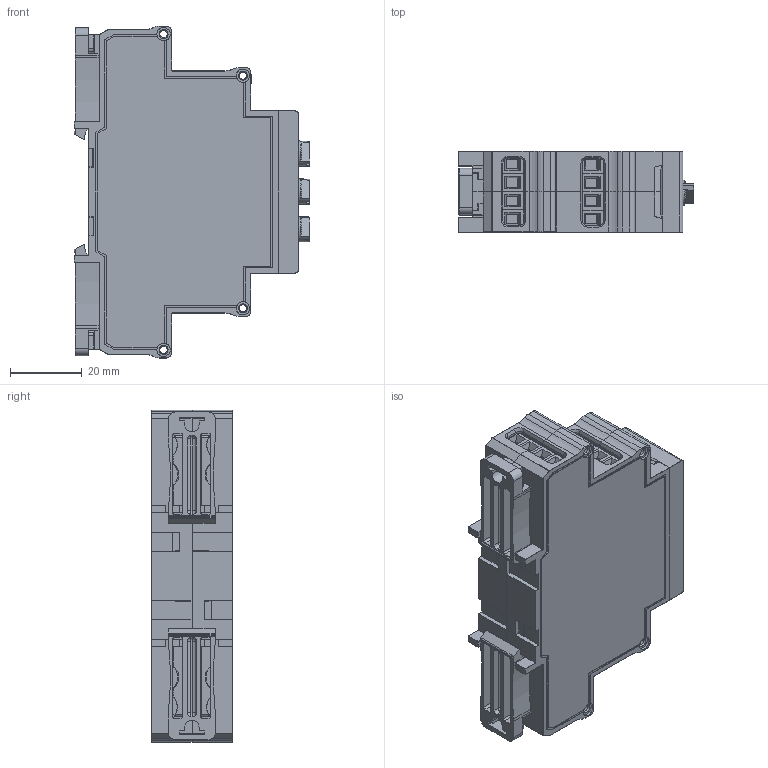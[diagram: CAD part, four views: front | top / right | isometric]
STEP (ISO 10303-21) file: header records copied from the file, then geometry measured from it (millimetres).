
FILE_DESCRIPTION(('STEP AP242'), '1');
FILE_NAME('ﾑ碚濱ﾐﾂﾔ-02-22', '', ('UNSPECIFIED'), ('UNSPECIFIED'), 'C3D Converter', 'C3D Toolkit', '');
FILE_SCHEMA(('AP242_MANAGED_MODEL_BASED_3D_ENGINEERING_MIM_LF { 1 0 10303 442 1 1 4 }'));
Length unit declared in the file: millimetre
Products named in the file (15): Case_UC1-2sR-2024_SimpleModel_11mm; Case13-18-23mm_2step_Lock_v01a_Build20140909_1552; UC1-2sR-2024_Plug_22mm; Case_UC1-2sR-2025_Face_22mm; R-knob_2017_Hex2mm__Џｮ гｬｮｫзｭЁо
Assembly tree (27 placements, depth 3):
  (unnamed)
    Case_UC1-2sR-2024_SimpleModel_11mm  x2
    Case13-18-23mm_2step_Lock_v01a_Build20140909_1552  x2
    UC1-2sR-2024_Plug_22mm
    Case_UC1-2sR-2025_Face_22mm
    (unnamed)  x3
      (unnamed)
    R-knob_2017_Hex2mm__Џｮ гｬｮｫзｭЁо  x3
    (unnamed)  x3
    (unnamed)  x3
    (unnamed)
    (unnamed)
    (unnamed)
    (unnamed)
    (unnamed)
Bounding box: 65.63 x 22.5 x 92.4 mm (x, y, z)
Volume: 28315.5 mm3; surface area: 44773.5 mm2
Topology: 54 solids, 54 shells, 4322 faces, 11844 edges, 7643 vertices
Faces by surface type: plane 3125, cylinder 491, extrusion 435, torus 136, cone 75, sphere 40, bspline 20
Full cylindrical faces by diameter (mm): 1.238 x12, 2.1 x14, 2.2 x6, 3.7 x8, 3.9 x12, 4.5 x3, 5 x3
Entity records: 122172 total; most frequent: CARTESIAN_POINT 22601, ORIENTED_EDGE 16622, DIRECTION 13462, EDGE_CURVE 8311, VECTOR 7172, LINE 6737, VERTEX_POINT 5461, AXIS2_PLACEMENT_3D 3145
